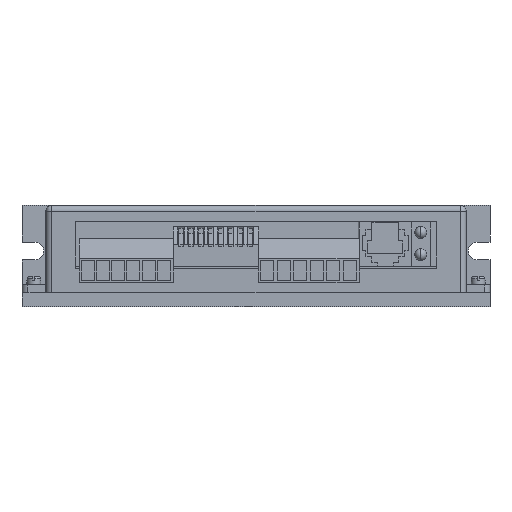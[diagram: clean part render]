
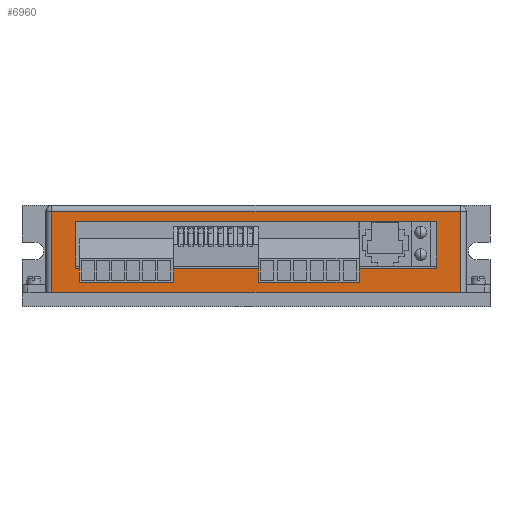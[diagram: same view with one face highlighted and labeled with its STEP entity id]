
A CAD part, left-side view. The second image highlights one B-rep face of the part: STEP entity #6960.
In plain terms, the highlighted planar face has unit normal (-1, 0, 0).
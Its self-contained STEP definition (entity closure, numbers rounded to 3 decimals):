
#700 = CARTESIAN_POINT ( 'NONE',  ( -37.75, 51.5, 24. ) ) ;
#1043 = ORIENTED_EDGE ( 'NONE', *, *, #9909, .T. ) ;
#1408 = CARTESIAN_POINT ( 'NONE',  ( -37.75, 51.5, 3.5 ) ) ;
#1456 = ORIENTED_EDGE ( 'NONE', *, *, #1739, .F. ) ;
#1716 = EDGE_CURVE ( 'NONE', #13587, #10948, #7544, .T. ) ;
#1739 = EDGE_CURVE ( 'NONE', #10948, #3969, #10505, .T. ) ;
#2053 = CARTESIAN_POINT ( 'NONE',  ( -37.75, -45.4, 21.4 ) ) ;
#2286 = CARTESIAN_POINT ( 'NONE',  ( -37.75, -51.5, 3.5 ) ) ;
#2505 = DIRECTION ( 'NONE',  ( 0., 0., -1. ) ) ;
#2822 = DIRECTION ( 'NONE',  ( 0., -1., 0. ) ) ;
#3408 = CARTESIAN_POINT ( 'NONE',  ( -37.75, -51.5, 24. ) ) ;
#3495 = ORIENTED_EDGE ( 'NONE', *, *, #3505, .F. ) ;
#3505 = EDGE_CURVE ( 'NONE', #3969, #6017, #6168, .T. ) ;
#3969 = VERTEX_POINT ( 'NONE', #7400 ) ;
#4168 = LINE ( 'NONE', #5688, #11039 ) ;
#4238 = EDGE_LOOP ( 'NONE', ( #1043, #15716, #6213, #14592 ) ) ;
#4600 = EDGE_CURVE ( 'NONE', #8967, #17674, #14057, .T. ) ;
#4640 = DIRECTION ( 'NONE',  ( 1., 0., 0. ) ) ;
#4733 = PLANE ( 'NONE',  #15284 ) ;
#4779 = VECTOR ( 'NONE', #15974, 1000. ) ;
#5282 = CARTESIAN_POINT ( 'NONE',  ( -37.75, 51.5, 25.5 ) ) ;
#5688 = CARTESIAN_POINT ( 'NONE',  ( -37.75, 45.4, 21.4 ) ) ;
#5914 = CARTESIAN_POINT ( 'NONE',  ( -37.75, 53., 24. ) ) ;
#6017 = VERTEX_POINT ( 'NONE', #11237 ) ;
#6168 = LINE ( 'NONE', #2053, #11320 ) ;
#6213 = ORIENTED_EDGE ( 'NONE', *, *, #8752, .T. ) ;
#6284 = CARTESIAN_POINT ( 'NONE',  ( -37.75, -45.4, 9.7 ) ) ;
#6960 = ADVANCED_FACE ( 'NONE', ( #14238, #17020 ), #4733, .F. ) ;
#7364 = DIRECTION ( 'NONE',  ( 0., -1., 0. ) ) ;
#7400 = CARTESIAN_POINT ( 'NONE',  ( -37.75, -45.4, 21.4 ) ) ;
#7544 = LINE ( 'NONE', #11848, #16521 ) ;
#7712 = ORIENTED_EDGE ( 'NONE', *, *, #1716, .F. ) ;
#8590 = CARTESIAN_POINT ( 'NONE',  ( -37.75, -51.5, 25.5 ) ) ;
#8690 = VERTEX_POINT ( 'NONE', #1408 ) ;
#8752 = EDGE_CURVE ( 'NONE', #8690, #8967, #12334, .T. ) ;
#8967 = VERTEX_POINT ( 'NONE', #2286 ) ;
#9136 = LINE ( 'NONE', #5282, #9526 ) ;
#9210 = ORIENTED_EDGE ( 'NONE', *, *, #16063, .F. ) ;
#9526 = VECTOR ( 'NONE', #2505, 1000. ) ;
#9552 = DIRECTION ( 'NONE',  ( 0., 0., -1. ) ) ;
#9909 = EDGE_CURVE ( 'NONE', #17674, #15744, #15508, .T. ) ;
#10026 = EDGE_CURVE ( 'NONE', #15744, #8690, #9136, .T. ) ;
#10031 = DIRECTION ( 'NONE',  ( 0., 0., -1. ) ) ;
#10381 = DIRECTION ( 'NONE',  ( 0., 1., 0. ) ) ;
#10505 = LINE ( 'NONE', #6284, #4779 ) ;
#10774 = CARTESIAN_POINT ( 'NONE',  ( -37.75, -45.4, 9.7 ) ) ;
#10948 = VERTEX_POINT ( 'NONE', #10774 ) ;
#11039 = VECTOR ( 'NONE', #9552, 1000. ) ;
#11235 = VECTOR ( 'NONE', #12638, 1000. ) ;
#11237 = CARTESIAN_POINT ( 'NONE',  ( -37.75, 45.4, 21.4 ) ) ;
#11320 = VECTOR ( 'NONE', #10381, 1000. ) ;
#11463 = CARTESIAN_POINT ( 'NONE',  ( -37.75, 53., 25.5 ) ) ;
#11848 = CARTESIAN_POINT ( 'NONE',  ( -37.75, 45.4, 9.7 ) ) ;
#12334 = LINE ( 'NONE', #15192, #12684 ) ;
#12638 = DIRECTION ( 'NONE',  ( 0., 1., 0. ) ) ;
#12684 = VECTOR ( 'NONE', #2822, 1000. ) ;
#13003 = EDGE_LOOP ( 'NONE', ( #1456, #7712, #9210, #3495 ) ) ;
#13587 = VERTEX_POINT ( 'NONE', #13750 ) ;
#13750 = CARTESIAN_POINT ( 'NONE',  ( -37.75, 45.4, 9.7 ) ) ;
#14057 = LINE ( 'NONE', #8590, #15947 ) ;
#14238 = FACE_OUTER_BOUND ( 'NONE', #4238, .T. ) ;
#14592 = ORIENTED_EDGE ( 'NONE', *, *, #4600, .T. ) ;
#15192 = CARTESIAN_POINT ( 'NONE',  ( -37.75, 53., 3.5 ) ) ;
#15284 = AXIS2_PLACEMENT_3D ( 'NONE', #11463, #4640, #10031 ) ;
#15508 = LINE ( 'NONE', #5914, #11235 ) ;
#15716 = ORIENTED_EDGE ( 'NONE', *, *, #10026, .T. ) ;
#15744 = VERTEX_POINT ( 'NONE', #700 ) ;
#15947 = VECTOR ( 'NONE', #16842, 1000. ) ;
#15974 = DIRECTION ( 'NONE',  ( 0., 0., 1. ) ) ;
#16063 = EDGE_CURVE ( 'NONE', #6017, #13587, #4168, .T. ) ;
#16521 = VECTOR ( 'NONE', #7364, 1000. ) ;
#16842 = DIRECTION ( 'NONE',  ( 0., 0., 1. ) ) ;
#17020 = FACE_BOUND ( 'NONE', #13003, .T. ) ;
#17674 = VERTEX_POINT ( 'NONE', #3408 ) ;
